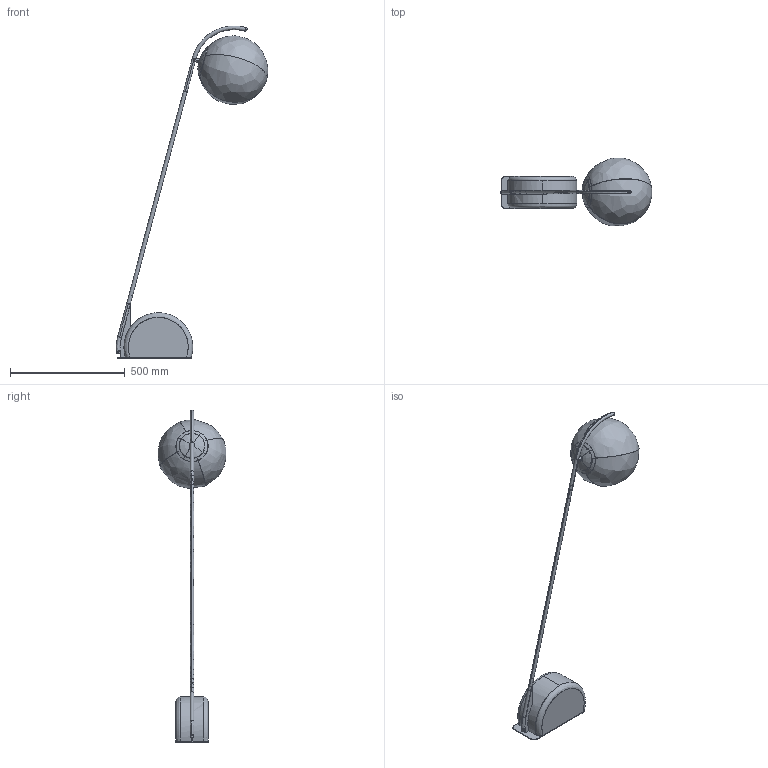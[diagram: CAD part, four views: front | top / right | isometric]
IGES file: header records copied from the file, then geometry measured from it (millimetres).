
Start section: Comment
Global section: file name: Terra.igs; native system:  By UGS Corp.; preprocessor: XPlus GENERIC/IGES 3.0; author: Author; organization: Title; date: 20240509.094953; units: inch
Bounding box: 659.51 x 295.04 x 1445.33 mm (x, y, z)
Surface area: 1088274.4 mm2 (no closed solid volume)
Topology: 0 solids, 0 shells, 354 faces, 2272 edges, 2252 vertices
Faces by surface type: bspline 354
